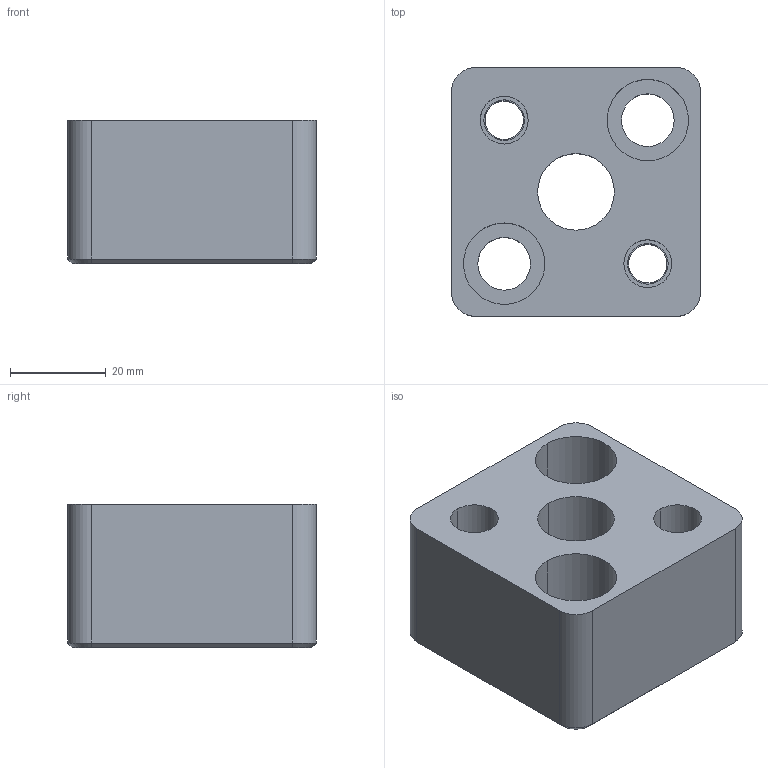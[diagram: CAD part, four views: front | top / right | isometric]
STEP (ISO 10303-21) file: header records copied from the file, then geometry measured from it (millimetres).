
FILE_DESCRIPTION(/* description */ (''),/* implementation_level */ '2;1');
FILE_NAME(/* name */ '3d_hsr-an16_04192_r00.stp',/* time_stamp */ '2011-01-10T14:14:35+09:00',/* author */ ('MISUMI'),/* organization */ (''),/* preprocessor_version */ 'ST-DEVELOPER v11',/* originating_system */ 'UGS - NX 5.0',/* authorisation */ '');
FILE_SCHEMA (('CONFIG_CONTROL_DESIGN'));
Length unit declared in the file: millimetre
Products named in the file (1): 3d_hsr-an16_04192_r00
Bounding box: 52 x 52 x 30 mm (x, y, z)
Volume: 61053.6 mm3; surface area: 16032.7 mm2
Topology: 1 solids, 1 shells, 51 faces, 116 edges, 74 vertices
Faces by surface type: cylinder 28, plane 17, cone 6
Entity records: 1562 total; most frequent: DIRECTION 278, CARTESIAN_POINT 254, ORIENTED_EDGE 232, EDGE_CURVE 116, AXIS2_PLACEMENT_3D 114, VERTEX_POINT 74, EDGE_LOOP 68, CIRCLE 62
